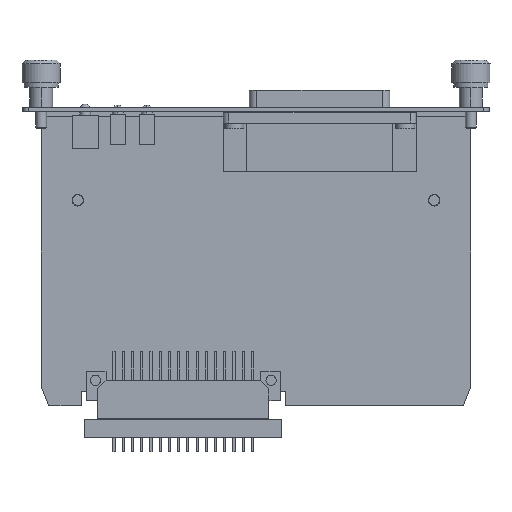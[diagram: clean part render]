
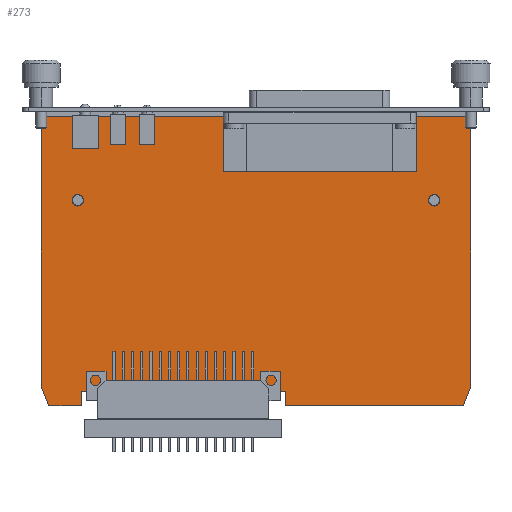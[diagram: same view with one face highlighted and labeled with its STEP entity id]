
A CAD part, left-side view. The second image highlights one B-rep face of the part: STEP entity #273.
In plain terms, the highlighted planar face has unit normal (-1, 0, 0).
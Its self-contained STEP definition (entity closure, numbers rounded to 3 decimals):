
#2=DIRECTION('',(0.,0.,-1.));
#3=VECTOR('',#2,4.);
#4=CARTESIAN_POINT('',(0.,-8.,-9.5));
#5=LINE('',#4,#3);
#6=DIRECTION('',(0.,-1.,0.));
#7=VECTOR('',#6,56.);
#8=CARTESIAN_POINT('',(0.,48.,-9.5));
#9=LINE('',#8,#7);
#10=DIRECTION('',(0.,0.,1.));
#11=VECTOR('',#10,4.);
#12=CARTESIAN_POINT('',(0.,48.,-13.5));
#13=LINE('',#12,#11);
#14=DIRECTION('',(0.,-1.,0.));
#15=VECTOR('',#14,9.);
#16=CARTESIAN_POINT('',(0.,57.,-13.5));
#17=LINE('',#16,#15);
#18=DIRECTION('',(0.,-0.371,-0.928));
#19=VECTOR('',#18,5.385);
#20=CARTESIAN_POINT('',(0.,59.,-8.5));
#21=LINE('',#20,#19);
#22=DIRECTION('',(0.,0.,-1.));
#23=VECTOR('',#22,74.5);
#24=CARTESIAN_POINT('',(0.,59.,66.));
#25=LINE('',#24,#23);
#26=DIRECTION('',(0.,1.,0.));
#27=VECTOR('',#26,118.);
#28=CARTESIAN_POINT('',(0.,-59.,66.));
#29=LINE('',#28,#27);
#30=DIRECTION('',(0.,0.,1.));
#31=VECTOR('',#30,74.5);
#32=CARTESIAN_POINT('',(0.,-59.,-8.5));
#33=LINE('',#32,#31);
#34=DIRECTION('',(0.,-0.371,0.928));
#35=VECTOR('',#34,5.385);
#36=CARTESIAN_POINT('',(0.,-57.,-13.5));
#37=LINE('',#36,#35);
#38=DIRECTION('',(0.,-1.,0.));
#39=VECTOR('',#38,49.);
#40=CARTESIAN_POINT('',(0.,-8.,-13.5));
#41=LINE('',#40,#39);
#42=CARTESIAN_POINT('',(0.,49.,43.));
#43=DIRECTION('',(1.,0.,0.));
#44=DIRECTION('',(0.,0.,1.));
#45=AXIS2_PLACEMENT_3D('',#42,#43,#44);
#47=CARTESIAN_POINT('',(0.,49.,43.));
#48=DIRECTION('',(1.,0.,0.));
#49=DIRECTION('',(0.,0.,-1.));
#50=AXIS2_PLACEMENT_3D('',#47,#48,#49);
#52=CARTESIAN_POINT('',(0.,-49.,43.));
#53=DIRECTION('',(1.,0.,0.));
#54=DIRECTION('',(0.,0.,1.));
#55=AXIS2_PLACEMENT_3D('',#52,#53,#54);
#57=CARTESIAN_POINT('',(0.,-49.,43.));
#58=DIRECTION('',(1.,0.,0.));
#59=DIRECTION('',(0.,0.,-1.));
#60=AXIS2_PLACEMENT_3D('',#57,#58,#59);
#178=CARTESIAN_POINT('',(0.,-8.,-9.5));
#179=CARTESIAN_POINT('',(0.,-8.,-13.5));
#180=VERTEX_POINT('',#178);
#181=VERTEX_POINT('',#179);
#182=CARTESIAN_POINT('',(0.,49.,41.4));
#184=VERTEX_POINT('',#182);
#186=CARTESIAN_POINT('',(0.,49.,44.6));
#187=VERTEX_POINT('',#186);
#188=CARTESIAN_POINT('',(0.,-57.,-13.5));
#189=VERTEX_POINT('',#188);
#190=CARTESIAN_POINT('',(0.,48.,-9.5));
#191=VERTEX_POINT('',#190);
#194=CARTESIAN_POINT('',(0.,-49.,44.6));
#195=CARTESIAN_POINT('',(0.,-49.,41.4));
#196=VERTEX_POINT('',#194);
#197=VERTEX_POINT('',#195);
#198=CARTESIAN_POINT('',(0.,-59.,-8.5));
#199=VERTEX_POINT('',#198);
#200=CARTESIAN_POINT('',(0.,48.,-13.5));
#201=VERTEX_POINT('',#200);
#210=CARTESIAN_POINT('',(0.,-59.,66.));
#211=VERTEX_POINT('',#210);
#214=CARTESIAN_POINT('',(0.,57.,-13.5));
#215=VERTEX_POINT('',#214);
#222=CARTESIAN_POINT('',(0.,59.,66.));
#223=VERTEX_POINT('',#222);
#226=CARTESIAN_POINT('',(0.,59.,-8.5));
#227=VERTEX_POINT('',#226);
#234=CARTESIAN_POINT('',(0.,0.,0.));
#235=DIRECTION('',(1.,0.,0.));
#236=DIRECTION('',(0.,0.,-1.));
#237=AXIS2_PLACEMENT_3D('',#234,#235,#236);
#238=PLANE('',#237);
#240=ORIENTED_EDGE('',*,*,#239,.F.);
#242=ORIENTED_EDGE('',*,*,#241,.F.);
#244=ORIENTED_EDGE('',*,*,#243,.F.);
#246=ORIENTED_EDGE('',*,*,#245,.F.);
#248=ORIENTED_EDGE('',*,*,#247,.F.);
#250=ORIENTED_EDGE('',*,*,#249,.F.);
#252=ORIENTED_EDGE('',*,*,#251,.F.);
#254=ORIENTED_EDGE('',*,*,#253,.F.);
#256=ORIENTED_EDGE('',*,*,#255,.F.);
#258=ORIENTED_EDGE('',*,*,#257,.F.);
#259=EDGE_LOOP('',(#240,#242,#244,#246,#248,#250,#252,#254,#256,#258));
#260=FACE_OUTER_BOUND('',#259,.F.);
#262=ORIENTED_EDGE('',*,*,#261,.F.);
#264=ORIENTED_EDGE('',*,*,#263,.F.);
#265=EDGE_LOOP('',(#262,#264));
#266=FACE_BOUND('',#265,.F.);
#268=ORIENTED_EDGE('',*,*,#267,.F.);
#270=ORIENTED_EDGE('',*,*,#269,.F.);
#271=EDGE_LOOP('',(#268,#270));
#272=FACE_BOUND('',#271,.F.);
#273=ADVANCED_FACE('',(#260,#266,#272),#238,.F.);
#46=CIRCLE('',#45,1.6);
#51=CIRCLE('',#50,1.6);
#56=CIRCLE('',#55,1.6);
#61=CIRCLE('',#60,1.6);
#239=EDGE_CURVE('',#180,#181,#5,.T.);
#241=EDGE_CURVE('',#191,#180,#9,.T.);
#243=EDGE_CURVE('',#201,#191,#13,.T.);
#245=EDGE_CURVE('',#215,#201,#17,.T.);
#247=EDGE_CURVE('',#227,#215,#21,.T.);
#249=EDGE_CURVE('',#223,#227,#25,.T.);
#251=EDGE_CURVE('',#211,#223,#29,.T.);
#253=EDGE_CURVE('',#199,#211,#33,.T.);
#255=EDGE_CURVE('',#189,#199,#37,.T.);
#257=EDGE_CURVE('',#181,#189,#41,.T.);
#261=EDGE_CURVE('',#187,#184,#46,.T.);
#263=EDGE_CURVE('',#184,#187,#51,.T.);
#267=EDGE_CURVE('',#196,#197,#56,.T.);
#269=EDGE_CURVE('',#197,#196,#61,.T.);
